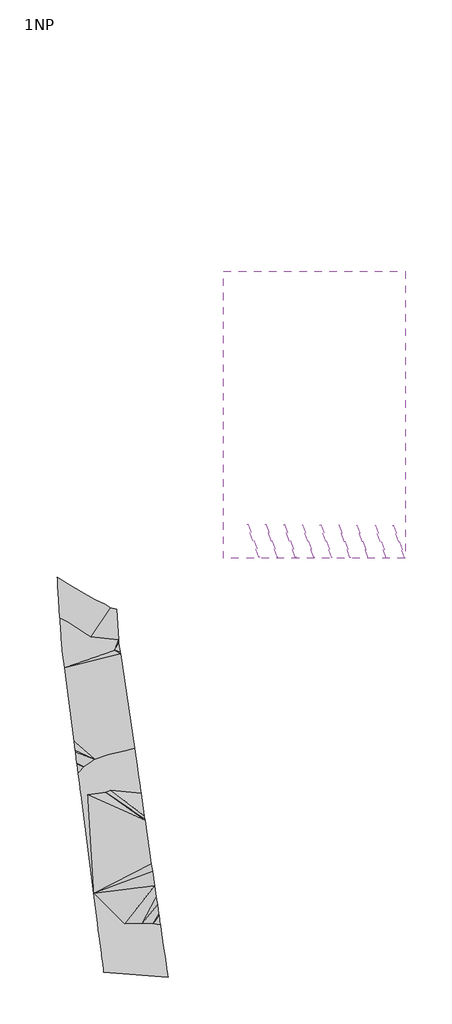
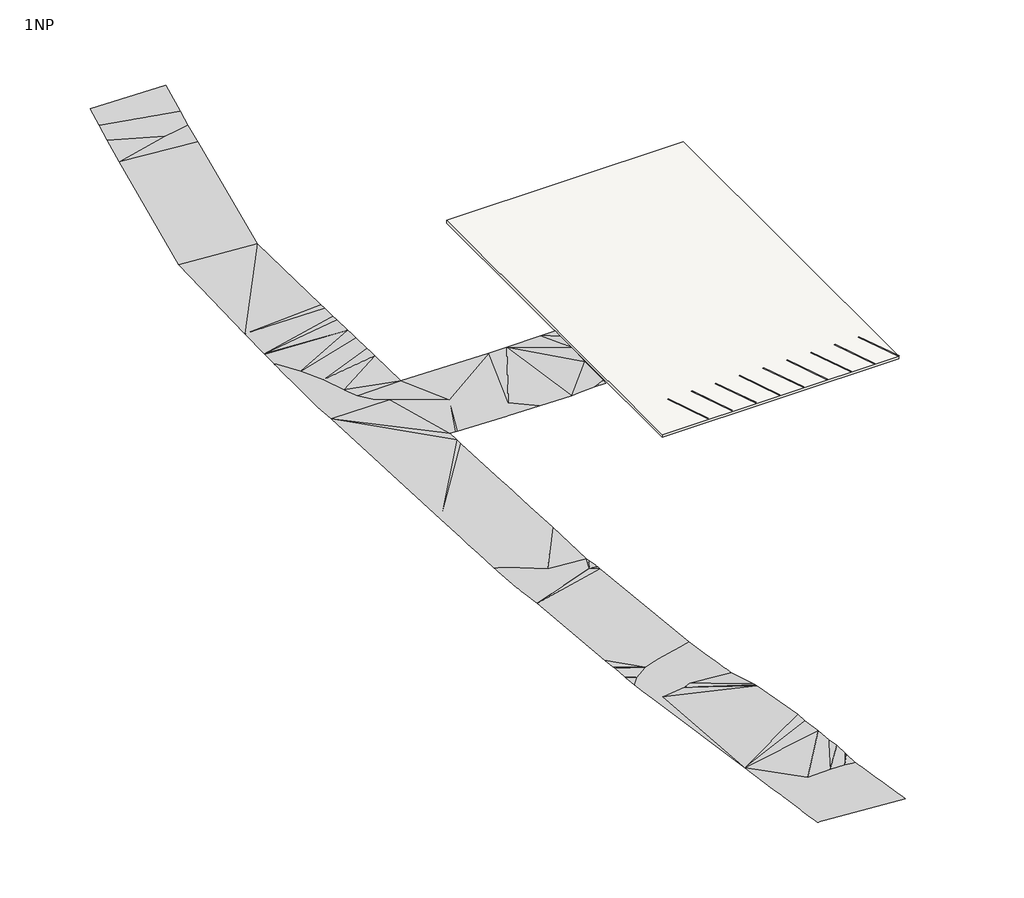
# One storey, incomplete: 10 proxies, 1 slab.
"""IFC4 building model written with IfcOpenShell, lengths in millimetres."""

import ifcopenshell
import ifcopenshell.guid

model = None  # the IFC model being written
_history = None  # IfcOwnerHistory: only IFC2X3 demands one
_inside = {}  # id of a spatial element -> (the spatial element, [elements in it])
_under = {}  # id of a project, library or spatial element -> (it, [spatial elements below it])
_declared = {}  # id of a project -> (the project, [libraries it declares])
_typed = {}  # id of a type object -> (the type object, [elements of that type])
_made_of = {}  # id of a material, layer set ... -> (it, [elements and type objects made of it])


def new_model(schema):
    """Start an empty IFC model of exactly this schema.

    Asked for "IFC4X3", IfcOpenShell would pick the latest addendum, in which some entities
    have other attributes; the version numbers below select the first issue.
    IFC2X3 requires an IfcOwnerHistory on every rooted entity: one is made here for all.
    """
    global model, _history
    if schema == "IFC4X3":
        model = ifcopenshell.file(schema_version=(4, 3, 0, 0))
    else:
        model = ifcopenshell.file(schema=schema)
    _inside.clear()
    _under.clear()
    _declared.clear()
    _typed.clear()
    _made_of.clear()
    _history = None
    if model.schema == "IFC2X3":
        org = make("IfcOrganization", Name="unknown")
        user = make(
            "IfcPersonAndOrganization",
            ThePerson=make("IfcPerson", FamilyName="unknown"),
            TheOrganization=org,
        )
        app = make(
            "IfcApplication",
            ApplicationDeveloper=org,
            Version="unknown",
            ApplicationFullName="unknown",
            ApplicationIdentifier="unknown",
        )
        _history = make(
            "IfcOwnerHistory",
            OwningUser=user,
            OwningApplication=app,
            ChangeAction="ADDED",
            CreationDate=0,
        )
    return model


def make(cls, **values):
    """One entity of the class cls with the attributes given. An attribute that is None is left unset."""
    return model.create_entity(
        cls, **{name: value for name, value in values.items() if value is not None}
    )


def rooted(cls, **values):
    """An entity with a GlobalId (a new one), such as an element, a storey or a relation."""
    return make(cls, GlobalId=ifcopenshell.guid.new(), OwnerHistory=_history, **values)


def si_unit(unit_type, name, prefix=None):
    """IfcSIUnit, for example si_unit("LENGTHUNIT", "METRE", prefix="MILLI")."""
    return make("IfcSIUnit", UnitType=unit_type, Prefix=prefix, Name=name)


def assignment(units):
    """IfcUnitAssignment: the units of a project."""
    return None if units is None else make("IfcUnitAssignment", Units=units)


def point(xyz):
    """IfcCartesianPoint."""
    return None if xyz is None else make("IfcCartesianPoint", Coordinates=xyz)


def direction(xyz):
    """IfcDirection."""
    return None if xyz is None else make("IfcDirection", DirectionRatios=xyz)


def frame(location, z_axis=None, x_axis=None):
    """IfcAxis2Placement3D, a coordinate frame: its origin and axes. An axis left out is left unset."""
    return make(
        "IfcAxis2Placement3D",
        Location=point(location),
        Axis=direction(z_axis),
        RefDirection=direction(x_axis),
    )


def origin():
    """The frame at (0, 0, 0) with its axes left unset."""
    return frame((0.0, 0.0, 0.0))


def origin_with_axes():
    """The frame at (0, 0, 0) with the z axis (0, 0, 1) and the x axis (1, 0, 0) written out."""
    return frame((0.0, 0.0, 0.0), z_axis=(0.0, 0.0, 1.0), x_axis=(1.0, 0.0, 0.0))


def place(relative_to, where):
    """IfcLocalPlacement: puts the frame where relative to a parent placement (None: the world)."""
    return make(
        "IfcLocalPlacement", PlacementRelTo=relative_to, RelativePlacement=where
    )


def context(
    kind, dimensions, precision=None, world=None, true_north=None, identifier=None
):
    """IfcGeometricRepresentationContext, for example the 3D "Model" context."""
    return make(
        "IfcGeometricRepresentationContext",
        ContextIdentifier=identifier,
        ContextType=kind,
        CoordinateSpaceDimension=dimensions,
        Precision=precision,
        WorldCoordinateSystem=world,
        TrueNorth=true_north,
    )


def project(units=None, contexts=None):
    """IfcProject with its units and contexts."""
    return rooted(
        "IfcProject",
        Name="project",
        RepresentationContexts=contexts,
        UnitsInContext=assignment(units),
    )


def spatial(cls, under=None, at=None, **own):
    """A site, building, storey or space (cls), placed at a placement, below another one or the project."""
    s = rooted(cls, ObjectPlacement=at, **own)
    if under is not None:
        _under.setdefault(under.id(), (under, []))[1].append(s)
    return s


def polyline(points):
    """IfcPolyline through the points."""
    return make("IfcPolyline", Points=[point(p) for p in points])


def point_list(points):
    """IfcCartesianPointList2D or 3D."""
    cls = (
        "IfcCartesianPointList2D" if len(points[0]) == 2 else "IfcCartesianPointList3D"
    )
    return make(cls, CoordList=points)


def outline(outer, holes=None, kind="AREA"):
    """IfcArbitraryClosedProfileDef: a profile drawn as a closed curve; with holes, ...WithVoids."""
    if holes is None:
        return make("IfcArbitraryClosedProfileDef", ProfileType=kind, OuterCurve=outer)
    return make(
        "IfcArbitraryProfileDefWithVoids",
        ProfileType=kind,
        OuterCurve=outer,
        InnerCurves=holes,
    )


def extrude(swept, where, along, depth):
    """IfcExtrudedAreaSolid: the profile swept, set in the frame where, extruded along a direction by depth."""
    return make(
        "IfcExtrudedAreaSolid",
        SweptArea=swept,
        Position=where,
        ExtrudedDirection=direction(along),
        Depth=depth,
    )


def triangles(points, corners, closed=None, point_numbers=None):
    """IfcTriangulatedFaceSet: each triangle names its three corners, points numbered from 1."""
    return make(
        "IfcTriangulatedFaceSet",
        Coordinates=point_list(points),
        Closed=closed,
        CoordIndex=corners,
        PnIndex=point_numbers,
    )


def shape(context_of_items, identifier, shape_type, items):
    """IfcShapeRepresentation: the items that make up one representation, for example the "Body"."""
    return make(
        "IfcShapeRepresentation",
        ContextOfItems=context_of_items,
        RepresentationIdentifier=identifier,
        RepresentationType=shape_type,
        Items=items,
    )


def source(mapping_origin, context_of_items, identifier, shape_type, items):
    """IfcRepresentationMap: a shape defined once, which mapped items show again and again."""
    return make(
        "IfcRepresentationMap",
        MappingOrigin=mapping_origin,
        MappedRepresentation=shape(context_of_items, identifier, shape_type, items),
    )


def transform(
    local_origin,
    x_axis=None,
    y_axis=None,
    z_axis=None,
    scale=None,
    scale2=None,
    scale3=None,
    uniform=True,
):
    """IfcCartesianTransformationOperator3D, or its non-uniform kind. x_axis, y_axis, z_axis: its Axis1, 2, 3."""
    if uniform:
        return make(
            "IfcCartesianTransformationOperator3D",
            Axis1=direction(x_axis),
            Axis2=direction(y_axis),
            LocalOrigin=point(local_origin),
            Scale=scale,
            Axis3=direction(z_axis),
        )
    return make(
        "IfcCartesianTransformationOperator3DnonUniform",
        Axis1=direction(x_axis),
        Axis2=direction(y_axis),
        LocalOrigin=point(local_origin),
        Scale=scale,
        Axis3=direction(z_axis),
        Scale2=scale2,
        Scale3=scale3,
    )


def mapped(mapping_source, mapping_target):
    """IfcMappedItem: shows the shape of a source again, moved by a transform."""
    return make(
        "IfcMappedItem", MappingSource=mapping_source, MappingTarget=mapping_target
    )


def made_of(thing, what):
    """Note that an element or type object is made of a material, layer set ...; save() writes the relation."""
    if what is not None:
        _made_of.setdefault(what.id(), (what, []))[1].append(thing)
    return thing


def element(
    cls,
    number,
    at=None,
    inside=None,
    cuts=None,
    type_object=None,
    material=None,
    context=None,
    identifier="Body",
    shape_type=None,
    held_by="IfcProductDefinitionShape",
    body=None,
    shapes=None,
    **own,
):
    """One element of the class cls, such as IfcWall. Its Tag is "e" and its number.

    at: its placement. inside: the storey or other place that contains it. cuts: it is an
    opening in that element (IfcRelVoidsElement). A single representation is given by context,
    identifier, shape_type and body (its items); several are given by shapes. held_by: the class
    of the entity that holds the representations. save() writes the other relations.
    """
    e = rooted(cls, Tag="e%d" % number, ObjectPlacement=at, **own)
    if body is not None:
        shapes = [shape(context, identifier, shape_type, body)]
    if shapes is not None:
        e.Representation = make(held_by, Representations=shapes)
    if inside is not None:
        _inside.setdefault(inside.id(), (inside, []))[1].append(e)
    if cuts is not None:
        rooted(
            "IfcRelVoidsElement", RelatingBuildingElement=cuts, RelatedOpeningElement=e
        )
    if type_object is not None:
        _typed.setdefault(type_object.id(), (type_object, []))[1].append(e)
    return made_of(e, material)


def aggregate(whole, parts):
    """IfcRelAggregates: a whole, such as a stair, and the parts it consists of."""
    return rooted("IfcRelAggregates", RelatingObject=whole, RelatedObjects=parts)


def save(model, path):
    """Write the relations noted so far, then the file.

    IfcRelAggregates (storeys below a building ...), IfcRelContainedInSpatialStructure (elements
    in a storey), IfcRelDefinesByType, IfcRelAssociatesMaterial and IfcRelDeclares: one each for
    every whole, place, type object, material and project.
    """
    for whole, parts in _under.values():
        aggregate(whole, parts)
    for where, things in _inside.values():
        rooted(
            "IfcRelContainedInSpatialStructure",
            RelatedElements=things,
            RelatingStructure=where,
        )
    for kind, things in _typed.values():
        rooted("IfcRelDefinesByType", RelatedObjects=things, RelatingType=kind)
    for what, things in _made_of.values():
        rooted("IfcRelAssociatesMaterial", RelatedObjects=things, RelatingMaterial=what)
    for by, libraries in _declared.values():
        rooted("IfcRelDeclares", RelatingContext=by, RelatedDefinitions=libraries)
    model.write(path)


def m_parking_space_4800_x_2400mm_70_deg_b01bde45(model_context):
    return source(origin(), model_context, "Body", "SweptSolid", [
        extrude(outline(polyline([(-47.7363851, -17.3746233), (47.7363851, 17.3746233), (1689.2421417, -4492.6253767), (1593.7693714, -4527.3746233), (-47.7363851, -17.3746233)])), origin_with_axes(), (0.0, 0.0, 1.0), 3.175),
    ])


model = new_model("IFC4")

# Units and contexts
model_context = context("Model", 3, world=origin())
ifc_project = project(units=[si_unit("LENGTHUNIT", "METRE", prefix="MILLI")], contexts=[model_context])

# Site, building, storey
site = spatial("IfcSite", under=ifc_project)
building = spatial("IfcBuilding", under=site)
storey = spatial("IfcBuildingStorey", under=building, Name="1NP", Elevation=0.0)

# Proxies
placement = place(None, origin())
element("IfcBuildingElementProxy", 1, Name="Building Element Proxy", at=placement, inside=storey, context=model_context, shape_type="Tessellation", body=[
    triangles([(-32442.9011169, 44706.4525635, 3643.8679893), (-32921.7160767, 42184.4483643, 3483.4519089), (-33331.6003601, 40025.510376, 3275.6971481), (-33942.4258667, 36808.1951294, 3000.0000229), (-37039.4065979, 20495.84198, 2505.3851555), (-37039.4065979, 8419.8773392, 2120.6954098), (-37039.4065979, 4889.8369949, 2040.9414116), (-37039.4065979, 4797.2507858, 2041.097216), (-37039.4065979, 3098.9239265, 2000.0000153), (-37039.4065979, 3058.015377, 2000.0000153), (-37039.4065979, 3024.2967957, 2000.0000153), (-37039.4065979, 2995.2680443, 2000.0000153), (-37039.4065979, 2969.3254417, 2000.0000153), (-37039.4065979, 2945.3551025, 2000.0000153), (-37039.4065979, 2922.5155083, 2000.0000153), (-37039.4065979, 1208.9310774, 2000.0000153), (-37039.4065979, -401.9579141, 2000.0000153), (-37039.4065979, -781.6852083, 2000.0000153), (-37039.4065979, -2520.2888969, 2000.0000153), (-37039.4065979, -3471.9122063, 2000.0000153), (-37039.4065979, -3917.9585266, 2000.0000153), (-37039.4065979, -4317.5149521, 2000.0000153), (-37039.4065979, -4862.9505547, 2000.0000153), (-36969.3062256, -5961.8407471, 2000.0000153), (-36893.896875, -7143.9296402, 2000.0000153), (-35744.9786316, -25154.1483398, 1319.7711868), (-35531.6776978, -28497.8279663, 1191.8197672), (-35467.0211792, -29511.3777283, 1160.144593), (-35345.9611267, -31409.0595703, 1098.8150517), (-35190.9240784, -33839.404248, 1002.4502214), (-35189.5078857, -33861.5889404, 1001.7530983), (-35186.349939, -33911.0928955, 1000.0000076), (-35162.5444153, -34284.2840698, 1000.0000076), (-35150.1614502, -34478.3978027, 1000.0000076), (-35140.4620422, -34630.4257324, 1000.0000076), (-35107.6756714, -35144.4059875, 1000.0000076), (-34946.3111023, -37673.9236816, 1000.0000076), (-34913.8061096, -37925.32229, 1000.0000076), (-34847.4845764, -38438.2979553, 1000.0000076), (-34791.88797, -38868.3205444, 1000.0000076), (-34548.7074646, -40749.2289917, 1000.0000076), (-33247.4682861, -50813.7960571, 249.1084321), (-33088.8826172, -52040.377002, 239.5960221), (-33049.3780518, -52345.9304443, 239.2025505), (-32858.831543, -53819.7428101, 99.7438845), (-32840.4187134, -53962.1527222, 94.6024923), (-32678.6588196, -55213.3089111, 0.0), (-32503.5532288, -56567.6867065, 0.0), (-32334.43797, -57875.7184937, 0.0), (-32294.4357605, -58185.1228638, 0.0), (-30547.2819397, -71698.6561523, 0.0), (-30010.5565613, -75850.0213623, 0.0), (-29993.0227478, -75985.6316895, 0.0), (-29981.3374146, -76076.021521, 0.0), (-29970.7961975, -76157.5374756, 0.0), (-29919.8179138, -76551.8436401, 0.0), (-29897.958783, -76720.917041, 0.0), (-29831.9744385, -77231.2765869, 0.0), (-29800.6833252, -77473.3083252, 0.0), (-29783.8448181, -77603.5329346, 0.0), (-29665.7264465, -78517.1422852, 0.0), (-29474.8753052, -79993.294043, 0.0), (-29428.9060181, -80348.8537354, 0.0), (-29276.0246521, -81531.3303955, 0.0), (-29193.6389832, -82168.5473145, 0.0), (-29150.7602051, -82500.1921875, 0.0), (-29140.7677917, -82577.4804932, 0.0), (-20306.3488953, -83305.036084, 0.0), (-20316.3529358, -83237.0402344, 0.0), (-20359.2758972, -82945.2719971, 0.0), (-20494.2676575, -82027.6442871, 0.0), (-20744.3616943, -80327.6085205, 0.0), (-20785.9219482, -80045.0955322, 0.0), (-20958.5974548, -78871.3067139, 0.0), (-21258.0140625, -76835.9983887, 0.0), (-21263.4997742, -76798.7029907, 0.0), (-21355.0383728, -76176.4619019, 0.0), (-21365.8353882, -76103.0663818, 0.0), (-21369.1444885, -76080.5747314, 0.0), (-21374.1883667, -76046.2791504, 0.0), (-21564.4930298, -74752.6743896, 199.3882474), (-21592.1890137, -74564.3975098, 206.3968494), (-21772.768689, -73336.8956909, 395.7442672), (-21940.7468079, -72195.044458, 403.1892343), (-22163.3564758, -70681.8344971, 571.8127353), (-22450.5877808, -68729.3397217, 611.5418873), (-22610.2361755, -67644.1129395, 700.9290184), (-23485.7432007, -61692.7692261, 608.0767645), (-23519.5783447, -61462.7646606, 604.940437), (-23576.698114, -61074.4860352, 563.8705238), (-24036.4653992, -57949.1605225, 0.0), (-24144.1820801, -57216.9494019, 0.0), (-24170.6944153, -57036.7278442, 0.0), (-24309.3719971, -56094.0598022, 0.0), (-24314.7507385, -56057.4945923, 0.0), (-24320.166687, -56020.6689331, 0.0), (-24356.7458496, -55772.023645, 0.0), (-24595.3824463, -54149.8668457, 0.0), (-24943.5170105, -51783.3787354, 0.0), (-26855.2282288, -38788.3161255, 979.9909092), (-26896.3257202, -38508.9494568, 1000.0000076), (-26923.7449768, -38322.5701355, 1000.0000076), (-26941.9717712, -38198.6637451, 1000.0000076), (-27076.9519043, -37281.1313782, 1000.0000076), (-27136.745929, -36874.6678162, 1017.2752613), (-27486.7873535, -31298.9686157, 1258.5368431), (-27726.2285522, -27484.9897888, 1385.5725483), (-27957.3772339, -23803.091272, 1494.8526512), (-28018.2595642, -22833.3272095, 1529.2116005), (-28439.612915, -16121.7147858, 1740.2894142), (-28479.4174622, -15487.6802307, 1765.4322109), (-28553.5408447, -14307.010437, 1803.6122932), (-27985.3731995, -14342.1420135, 1813.3951263), (-27766.6632935, -14355.6656067, 1813.8352158), (-22708.9278259, -14668.404657, 1919.7225025), (-22605.3481018, -14674.8089172, 1921.289558), (-19367.3190033, -14875.0280914, 2000.0000153), (-16119.7160706, -15075.83909, 2153.2556316), (-15411.8220703, -15119.6108368, 2224.2152538), (-13773.6662476, -15220.9046539, 2372.9609711), (-12656.4774628, -15289.9841583, 2447.435495), (-12656.4774628, -14841.7812836, 2485.9648293), (-12656.4774628, -13300.8276672, 2525.7173447), (-12656.4774628, -11470.1068542, 2549.0063301), (-12656.4774628, -9082.1473801, 2694.2384537), (-12656.4774628, -6976.5090454, 2688.8047737), (-12656.4774628, -6140.8745865, 2735.7100502), (-14157.0405212, -6048.0895523, 2682.0979156), (-17632.1946808, -5833.207901, 2467.2479485), (-19472.9544159, -5719.3869415, 2353.5782879), (-28417.0398743, -5166.341629, 2074.5318031), (-28558.389386, -636.612014, 2216.3937836), (-28579.4718201, 38.9341288, 2214.9302101), (-28601.2937439, 738.2393864, 2217.5480736), (-28661.608667, 2671.1026566, 2246.1405144), (-28683.1631653, 3361.8372391, 2250.2664253), (-28705.3036743, 4071.3128288, 2253.8866985), (-28764.1489197, 5957.0852234, 2288.140131), (-28785.39646, 6637.983197, 2289.6032684), (-28828.3868591, 8015.6508499, 2321.878624), (-28850.6878235, 8730.3362961, 2319.8988029), (-29194.8017029, 19757.7661011, 2560.9643211), (-26113.2200317, 35989.0055969, 3000.0000229), (-26069.8761658, 36217.3009644, 3000.0000229), (-25585.9196594, 38766.3802551, 3000.0000229), (-25207.1683594, 40761.3352295, 3191.9746422), (-24458.1675659, 44706.4525635, 3442.9101974), (-36852.1017517, 2907.6542061, 2000.0000153), (-35484.5852234, 866.0560759, 2000.0000153), (-34394.5610596, -1336.2312286, 2000.0000153), (-34168.0655823, -34395.8772583, 1000.0000076), (-33600.5885925, -3661.7055634, 2000.0000153), (-32995.790625, -5084.6477783, 2000.0000153), (-32025.6916992, -6288.5801056, 2000.0000153), (-31898.1599487, -54317.5310303, 0.0), (-31388.9677734, -58200.628894, 0.0), (-30982.6739685, -36468.8460754, 1000.0000076), (-30763.9105774, -7182.1383545, 2000.0000153), (-30383.1245178, -53295.1701782, 0.0), (-28902.8892883, -57868.253833, 0.0), (-28741.3340332, -75814.9955933, 0.0), (-28655.9206421, -52697.406665, 0.0), (-28283.720105, 38243.7702942, 3000.0000229), (-28195.8580261, -57537.5112305, 0.0), (-27708.6947388, -56927.6275269, 0.0), (-27664.8997375, -38322.5701355, 1000.0000076), (-27500.3028076, -56565.5798584, 0.0), (-27238.2536865, -56240.2508789, 0.0), (-26317.5819763, -75926.2539185, 0.0), (-26217.3601868, -52137.5013062, 0.0), (-26208.2421387, -55582.5886963, 0.0), (-26063.2323853, -9885.3001007, 2000.0000153), (-24989.6234985, -55490.8919678, 0.0), (-23891.9207336, -75870.4015137, 0.0), (-22386.7521423, -75889.707312, 0.0), (-21617.4874695, -12989.9373413, 2000.0000153)], [[44, 45, 155], [159, 42, 43], [166, 157, 41], [43, 44, 159], [160, 155, 48], [49, 156, 48], [46, 47, 155], [155, 47, 48], [46, 155, 45], [49, 50, 156], [157, 40, 41], [34, 35, 151], [32, 33, 151], [31, 32, 151], [34, 151, 33], [157, 38, 39], [157, 37, 38], [36, 37, 151], [157, 151, 37], [36, 151, 35], [157, 39, 40], [31, 151, 30], [44, 155, 159], [161, 59, 60], [161, 58, 59], [57, 58, 161], [60, 169, 161], [64, 73, 63], [65, 72, 64], [62, 169, 61], [63, 169, 62], [60, 61, 169], [66, 72, 65], [88, 160, 156], [41, 42, 100], [159, 155, 160], [159, 162, 42], [48, 156, 160], [51, 52, 161], [51, 156, 50], [161, 54, 55], [161, 55, 56], [156, 51, 88], [161, 53, 54], [160, 165, 159], [161, 52, 53], [56, 57, 161], [151, 157, 106], [66, 67, 71], [29, 151, 106], [152, 19, 20], [149, 16, 17], [148, 16, 149], [17, 18, 150], [24, 153, 23], [22, 23, 152], [21, 22, 152], [18, 19, 150], [152, 20, 21], [25, 153, 24], [16, 148, 15], [8, 9, 148], [139, 6, 7], [5, 6, 142], [7, 8, 137], [14, 15, 148], [13, 14, 148], [11, 12, 148], [10, 11, 148], [13, 148, 12], [9, 10, 148], [148, 137, 8], [107, 27, 28], [152, 150, 19], [27, 107, 26], [112, 158, 25], [28, 29, 106], [154, 25, 158], [25, 26, 111], [153, 131, 152], [153, 25, 154], [152, 132, 150], [149, 17, 150], [23, 153, 152], [134, 149, 150], [149, 135, 136], [29, 30, 151], [131, 153, 154], [3, 4, 163], [5, 142, 4], [3, 163, 2], [1, 2, 146], [142, 143, 4], [7, 138, 139], [7, 137, 138], [6, 141, 142], [6, 140, 141], [6, 139, 140], [149, 136, 137], [154, 158, 131], [149, 137, 148], [169, 51, 161], [165, 164, 91], [169, 85, 51], [167, 92, 168], [165, 92, 167], [168, 162, 159], [167, 159, 165], [90, 160, 89], [167, 168, 159], [90, 164, 160], [84, 169, 174], [90, 91, 164], [93, 168, 92], [92, 165, 91], [88, 51, 87], [169, 74, 174], [168, 93, 171], [170, 171, 98], [171, 93, 173], [170, 100, 42], [170, 162, 171], [99, 100, 170], [100, 166, 41], [98, 171, 173], [171, 162, 168], [95, 96, 173], [94, 95, 173], [98, 99, 170], [97, 98, 173], [96, 97, 173], [93, 94, 173], [165, 160, 164], [75, 175, 174], [77, 78, 175], [76, 77, 175], [75, 76, 175], [66, 71, 72], [67, 70, 71], [169, 63, 74], [63, 73, 74], [64, 72, 73], [174, 74, 75], [86, 51, 85], [169, 84, 85], [160, 88, 89], [51, 86, 87], [175, 82, 174], [80, 81, 175], [79, 80, 175], [84, 174, 83], [83, 174, 82], [81, 82, 175], [175, 78, 79], [67, 69, 70], [67, 68, 69], [28, 106, 107], [107, 108, 26], [110, 26, 109], [108, 109, 26], [111, 26, 110], [166, 102, 103], [103, 104, 166], [106, 157, 105], [105, 166, 104], [102, 166, 101], [166, 100, 101], [152, 131, 132], [132, 133, 150], [134, 135, 149], [150, 133, 134], [112, 172, 158], [172, 112, 113], [172, 131, 158], [163, 4, 143], [163, 143, 144], [113, 114, 172], [111, 112, 25], [157, 166, 105], [129, 176, 117], [115, 116, 176], [176, 116, 117], [115, 176, 172], [129, 117, 118], [120, 121, 122], [119, 120, 123], [119, 123, 124], [123, 120, 122], [119, 124, 118], [124, 129, 118], [130, 131, 172], [147, 1, 146], [145, 146, 163], [144, 145, 163], [126, 127, 128], [125, 126, 128], [129, 130, 176], [129, 125, 128], [130, 172, 176], [125, 129, 124], [115, 172, 114], [146, 2, 163], [42, 162, 170]], closed=False),
])
m_parking_space_4800_x_2400mm_70_deg_shape = m_parking_space_4800_x_2400mm_70_deg_b01bde45(model_context)
element("IfcBuildingElementProxy", 2, Name="M_Parking Space : 4800 x 2400mm - 70 deg", ObjectType="M_Parking Space : 4800 x 2400mm - 70 deg", at=placement, inside=storey, context=model_context, shape_type="MappedRepresentation", body=[
    mapped(m_parking_space_4800_x_2400mm_70_deg_shape, transform((12323.2249657, -25650.0643782, 3000.0), x_axis=(-0.9999999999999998, 0.0, 0.0), y_axis=(0.0, -0.9999999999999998, 0.0), z_axis=(0.0, 0.0, 1.0))),
])
element("IfcBuildingElementProxy", 3, Name="M_Parking Space : 4800 x 2400mm - 70 deg", ObjectType="M_Parking Space : 4800 x 2400mm - 70 deg", at=placement, inside=storey, context=model_context, shape_type="MappedRepresentation", body=[
    mapped(m_parking_space_4800_x_2400mm_70_deg_shape, transform((9816.9613508, -25632.6897549, 3000.0), x_axis=(-1.0, 0.0, 0.0), y_axis=(0.0, -1.0, 0.0), z_axis=(0.0, 0.0, 1.0))),
])
element("IfcBuildingElementProxy", 4, Name="M_Parking Space : 4800 x 2400mm - 70 deg", ObjectType="M_Parking Space : 4800 x 2400mm - 70 deg", at=placement, inside=storey, context=model_context, shape_type="MappedRepresentation", body=[
    mapped(m_parking_space_4800_x_2400mm_70_deg_shape, transform((7310.697736, -25615.3151316, 3000.0), x_axis=(-1.0, 0.0, 0.0), y_axis=(0.0, -1.0, 0.0), z_axis=(0.0, 0.0, 1.0))),
])
element("IfcBuildingElementProxy", 5, Name="M_Parking Space : 4800 x 2400mm - 70 deg", ObjectType="M_Parking Space : 4800 x 2400mm - 70 deg", at=placement, inside=storey, context=model_context, shape_type="MappedRepresentation", body=[
    mapped(m_parking_space_4800_x_2400mm_70_deg_shape, transform((4804.4341211, -25597.9405084, 3000.0), x_axis=(-1.0, 0.0, 0.0), y_axis=(0.0, -1.0, 0.0), z_axis=(0.0, 0.0, 1.0))),
])
element("IfcBuildingElementProxy", 6, Name="M_Parking Space : 4800 x 2400mm - 70 deg", ObjectType="M_Parking Space : 4800 x 2400mm - 70 deg", at=placement, inside=storey, context=model_context, shape_type="MappedRepresentation", body=[
    mapped(m_parking_space_4800_x_2400mm_70_deg_shape, transform((2298.1705062, -25580.5658851, 3000.0), x_axis=(-1.0, 0.0, 0.0), y_axis=(0.0, -1.0, 0.0), z_axis=(0.0, 0.0, 1.0))),
])
element("IfcBuildingElementProxy", 7, Name="M_Parking Space : 4800 x 2400mm - 70 deg", ObjectType="M_Parking Space : 4800 x 2400mm - 70 deg", at=placement, inside=storey, context=model_context, shape_type="MappedRepresentation", body=[
    mapped(m_parking_space_4800_x_2400mm_70_deg_shape, transform((-208.0931086, -25563.1912618, 3000.0), x_axis=(-1.0, 0.0, 0.0), y_axis=(0.0, -1.0, 0.0), z_axis=(0.0, 0.0, 1.0))),
])
element("IfcBuildingElementProxy", 8, Name="M_Parking Space : 4800 x 2400mm - 70 deg", ObjectType="M_Parking Space : 4800 x 2400mm - 70 deg", at=placement, inside=storey, context=model_context, shape_type="MappedRepresentation", body=[
    mapped(m_parking_space_4800_x_2400mm_70_deg_shape, transform((-2714.3567235, -25545.8166385, 3000.0), x_axis=(-1.0, 0.0, 0.0), y_axis=(0.0, -1.0, 0.0), z_axis=(0.0, 0.0, 1.0))),
])
element("IfcBuildingElementProxy", 9, Name="M_Parking Space : 4800 x 2400mm - 70 deg", ObjectType="M_Parking Space : 4800 x 2400mm - 70 deg", at=placement, inside=storey, context=model_context, shape_type="MappedRepresentation", body=[
    mapped(m_parking_space_4800_x_2400mm_70_deg_shape, transform((-5220.6203384, -25528.4420152, 3000.0), x_axis=(-1.0, 0.0, 0.0), y_axis=(0.0, -1.0, 0.0), z_axis=(0.0, 0.0, 1.0))),
])
element("IfcBuildingElementProxy", 10, Name="M_Parking Space : 4800 x 2400mm - 70 deg", ObjectType="M_Parking Space : 4800 x 2400mm - 70 deg", at=placement, inside=storey, context=model_context, shape_type="MappedRepresentation", body=[
    mapped(m_parking_space_4800_x_2400mm_70_deg_shape, transform((-7726.8839532, -25511.067392, 3000.0), x_axis=(-1.0, 0.0, 0.0), y_axis=(0.0, -1.0, 0.0), z_axis=(0.0, 0.0, 1.0))),
])

# Slab
element("IfcSlab", 11, ObjectType="Deska 1", at=placement, inside=storey, context=model_context, shape_type="SweptSolid", body=[
    extrude(outline(polyline([(12323.2249657, 13777.5989878), (12323.2249657, -25650.0643782), (-12656.4771731, -25650.0643782), (-12656.4771731, 13777.5989878), (12323.2249657, 13777.5989878)])), frame((0.0, 0.0, 2695.2), z_axis=(0.0, 0.0, 1.0), x_axis=(1.0, 0.0, 0.0)), (0.0, 0.0, 1.0), 304.8),
])

save(model, "model.ifc")
